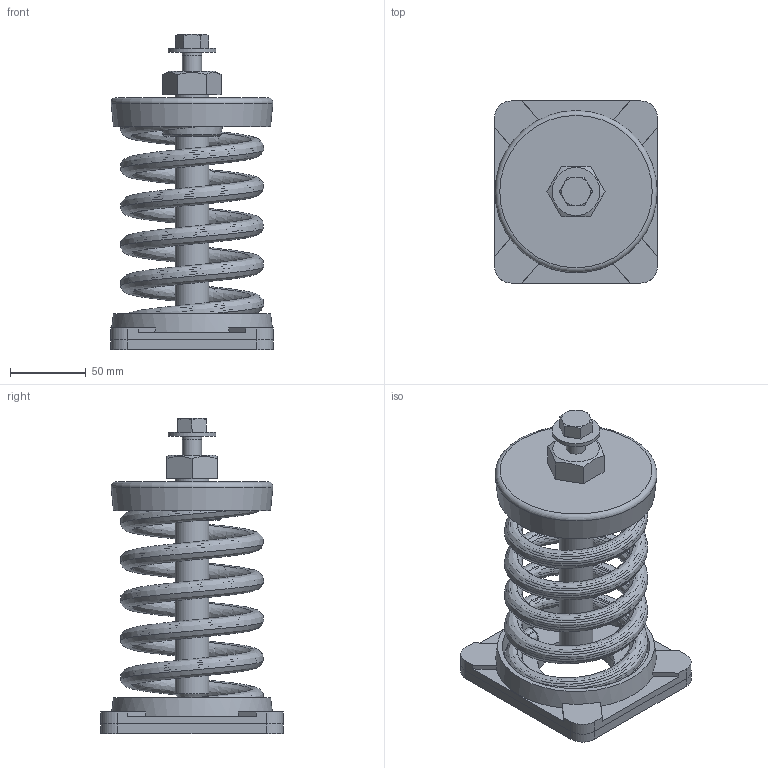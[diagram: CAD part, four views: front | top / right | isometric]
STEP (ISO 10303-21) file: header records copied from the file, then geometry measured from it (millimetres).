
FILE_DESCRIPTION(/* description */ (''),/* implementation_level */ '2;1');
FILE_NAME(/* name */ 'C:\001_Work\Designs\SLF ASSEMBLIES\SLF-106.stp',/* time_stamp */ '2016-01-10T14:53:24-05:00',/* author */ ('rramoutar'),/* organization */ ('Mason Industries Inc.'),/* preprocessor_version */ 'ST-DEVELOPER v15.6',/* originating_system */ 'Autodesk Inventor 2015',/* authorisation */ '');
FILE_SCHEMA (('CONFIG_CONTROL_DESIGN'));
Length unit declared in the file: inch
Products named in the file (1): SLF-106
Bounding box: 107.95 x 120.65 x 208.64 mm (x, y, z)
Volume: 346667 mm3; surface area: 212567 mm2
Topology: 7 solids, 7 shells, 232 faces, 587 edges, 388 vertices
Faces by surface type: plane 156, bspline 30, cylinder 29, cone 14, torus 3
Full cylindrical faces by diameter (mm): 9.525 x8, 12.7 x2, 13.487 x1, 19.05 x1, 22.225 x2, 31.75 x1, 50.8 x2, 97.631 x2
Entity records: 15907 total; most frequent: CARTESIAN_POINT 10397, ORIENTED_EDGE 1088, DIRECTION 951, EDGE_CURVE 544, VERTEX_POINT 375, LINE 363, VECTOR 363, EDGE_LOOP 299
